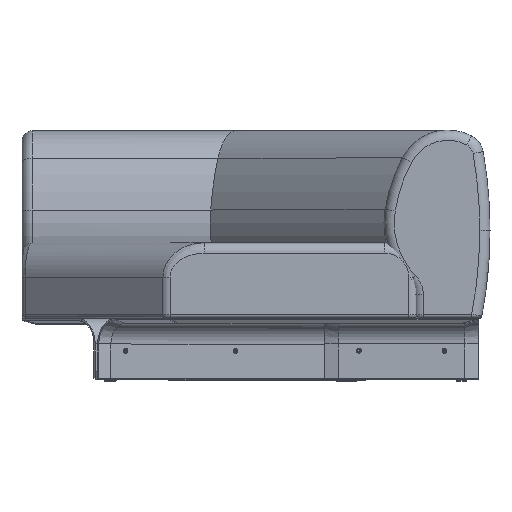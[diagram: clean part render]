
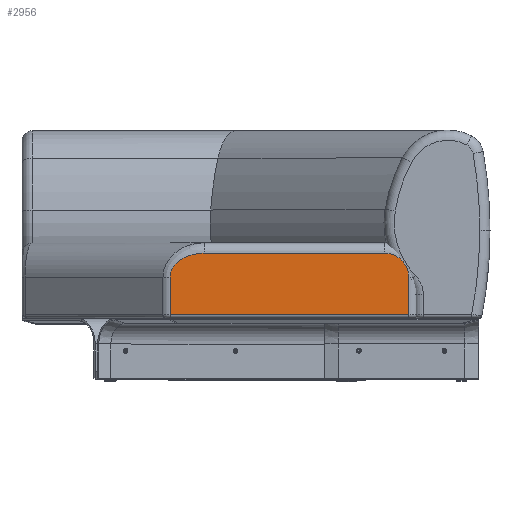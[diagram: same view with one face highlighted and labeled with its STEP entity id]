
A CAD part, top view. The second image highlights one B-rep face of the part: STEP entity #2956.
In plain terms, the highlighted planar face has unit normal (0, 0, 1).
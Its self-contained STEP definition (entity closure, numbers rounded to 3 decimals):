
#302 = VECTOR ( 'NONE', #9972, 1000. ) ;
#379 = CARTESIAN_POINT ( 'NONE',  ( 463.358, 25., 667.5 ) ) ;
#573 = DIRECTION ( 'NONE',  ( -1., 0., 0. ) ) ;
#926 = LINE ( 'NONE', #11519, #2661 ) ;
#1188 = AXIS2_PLACEMENT_3D ( 'NONE', #2143, #7388, #3710 ) ;
#1252 = EDGE_CURVE ( 'NONE', #8975, #6001, #6142, .T. ) ;
#1405 = CARTESIAN_POINT ( 'NONE',  ( -234.216, 235., 667.5 ) ) ;
#1457 = CARTESIAN_POINT ( 'NONE',  ( 493.358, 235., 667.5 ) ) ;
#2143 = CARTESIAN_POINT ( 'NONE',  ( 393.358, 135., 667.5 ) ) ;
#2145 = CARTESIAN_POINT ( 'NONE',  ( 393.358, 205., 667.5 ) ) ;
#2254 = EDGE_CURVE ( 'NONE', #4327, #10095, #10143, .T. ) ;
#2620 = ORIENTED_EDGE ( 'NONE', *, *, #4189, .T. ) ;
#2661 = VECTOR ( 'NONE', #4562, 1000. ) ;
#2775 = ORIENTED_EDGE ( 'NONE', *, *, #9335, .T. ) ;
#2935 = LINE ( 'NONE', #3694, #302 ) ;
#2956 = ADVANCED_FACE ( 'NONE', ( #6763 ), #10358, .F. ) ;
#3551 = AXIS2_PLACEMENT_3D ( 'NONE', #1457, #5032, #573 ) ;
#3694 = CARTESIAN_POINT ( 'NONE',  ( 493.358, 205., 667.5 ) ) ;
#3710 = DIRECTION ( 'NONE',  ( -1., 0., 0. ) ) ;
#3747 = CARTESIAN_POINT ( 'NONE',  ( 493.358, 25., 667.5 ) ) ;
#4022 = EDGE_CURVE ( 'NONE', #6001, #4327, #6765, .T. ) ;
#4119 = CARTESIAN_POINT ( 'NONE',  ( -234.216, 25., 667.5 ) ) ;
#4189 = EDGE_CURVE ( 'NONE', #10095, #5808, #926, .T. ) ;
#4327 = VERTEX_POINT ( 'NONE', #4119 ) ;
#4465 = VERTEX_POINT ( 'NONE', #2145 ) ;
#4562 = DIRECTION ( 'NONE',  ( 0., 1., 0. ) ) ;
#4833 = CARTESIAN_POINT ( 'NONE',  ( 463.358, 135., 667.5 ) ) ;
#5032 = DIRECTION ( 'NONE',  ( 0., 0., -1. ) ) ;
#5212 = CARTESIAN_POINT ( 'NONE',  ( -234.216, 176.005, 667.5 ) ) ;
#5783 = ORIENTED_EDGE ( 'NONE', *, *, #10006, .T. ) ;
#5808 = VERTEX_POINT ( 'NONE', #4833 ) ;
#5870 = ORIENTED_EDGE ( 'NONE', *, *, #1252, .T. ) ;
#6001 = VERTEX_POINT ( 'NONE', #8683 ) ;
#6142 =( BOUNDED_CURVE ( )  B_SPLINE_CURVE ( 3, ( #10658, #10548, #5212, #6890 ),
 .UNSPECIFIED., .F., .F. ) 
 B_SPLINE_CURVE_WITH_KNOTS ( ( 4, 4 ),
 ( 1.571, 3.142 ),
 .UNSPECIFIED. ) 
 CURVE ( )  GEOMETRIC_REPRESENTATION_ITEM ( )  RATIONAL_B_SPLINE_CURVE ( ( 1., 0.805, 0.805, 1. ) ) 
 REPRESENTATION_ITEM ( '' )  );
#6158 = ORIENTED_EDGE ( 'NONE', *, *, #4022, .T. ) ;
#6232 = ORIENTED_EDGE ( 'NONE', *, *, #2254, .T. ) ;
#6763 = FACE_OUTER_BOUND ( 'NONE', #6842, .T. ) ;
#6765 = LINE ( 'NONE', #1405, #8632 ) ;
#6825 = DIRECTION ( 'NONE',  ( 0., -1., 0. ) ) ;
#6842 = EDGE_LOOP ( 'NONE', ( #6232, #2620, #5783, #2775, #5870, #6158 ) ) ;
#6890 = CARTESIAN_POINT ( 'NONE',  ( -234.216, 135., 667.5 ) ) ;
#7388 = DIRECTION ( 'NONE',  ( 0., 0., 1. ) ) ;
#8226 = CARTESIAN_POINT ( 'NONE',  ( -135.221, 205., 667.5 ) ) ;
#8632 = VECTOR ( 'NONE', #6825, 1000. ) ;
#8683 = CARTESIAN_POINT ( 'NONE',  ( -234.216, 135., 667.5 ) ) ;
#8975 = VERTEX_POINT ( 'NONE', #8226 ) ;
#9197 = VECTOR ( 'NONE', #10035, 1000. ) ;
#9335 = EDGE_CURVE ( 'NONE', #4465, #8975, #2935, .T. ) ;
#9401 = CIRCLE ( 'NONE', #1188, 70. ) ;
#9972 = DIRECTION ( 'NONE',  ( -1., 0., 0. ) ) ;
#10006 = EDGE_CURVE ( 'NONE', #5808, #4465, #9401, .T. ) ;
#10035 = DIRECTION ( 'NONE',  ( 1., 0., 0. ) ) ;
#10095 = VERTEX_POINT ( 'NONE', #379 ) ;
#10143 = LINE ( 'NONE', #3747, #9197 ) ;
#10358 = PLANE ( 'NONE',  #3551 ) ;
#10548 = CARTESIAN_POINT ( 'NONE',  ( -193.211, 205., 667.5 ) ) ;
#10658 = CARTESIAN_POINT ( 'NONE',  ( -135.221, 205., 667.5 ) ) ;
#11519 = CARTESIAN_POINT ( 'NONE',  ( 463.358, 235., 667.5 ) ) ;
